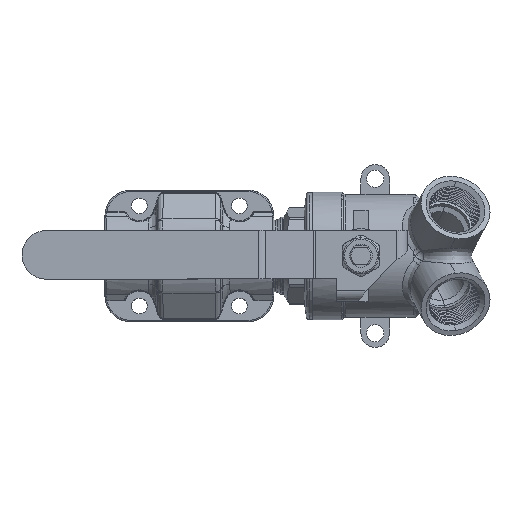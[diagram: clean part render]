
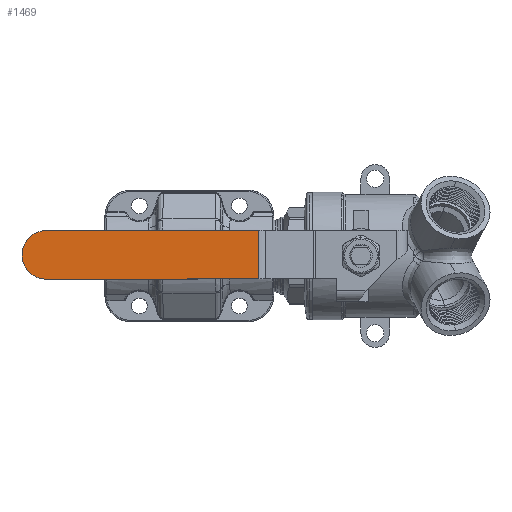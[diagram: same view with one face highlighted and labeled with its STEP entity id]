
A CAD part, top view. The second image highlights one B-rep face of the part: STEP entity #1469.
In plain terms, the highlighted planar face has unit normal (0, 0, 1).
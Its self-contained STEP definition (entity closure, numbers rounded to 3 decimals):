
#1287=PLANE('',#14549);
#1469=ADVANCED_FACE('',(#2636),#1287,.T.);
#2636=FACE_OUTER_BOUND('',#3505,.T.);
#3505=EDGE_LOOP('',(#6006,#6007,#6008,#6009,#6010));
#4497=LINE('',#20346,#5208);
#4498=LINE('',#20348,#5209);
#4499=LINE('',#20350,#5210);
#5208=VECTOR('',#16243,1.);
#5209=VECTOR('',#16246,1.);
#5210=VECTOR('',#16247,1.);
#6006=ORIENTED_EDGE('',*,*,#11544,.F.);
#6007=ORIENTED_EDGE('',*,*,#11543,.T.);
#6008=ORIENTED_EDGE('',*,*,#11462,.T.);
#6009=ORIENTED_EDGE('',*,*,#11540,.T.);
#6010=ORIENTED_EDGE('',*,*,#11545,.T.);
#10178=VERTEX_POINT('',#19990);
#10179=VERTEX_POINT('',#19992);
#10225=VERTEX_POINT('',#20339);
#10227=VERTEX_POINT('',#20344);
#10228=VERTEX_POINT('',#20349);
#11462=EDGE_CURVE('',#10179,#10178,#13620,.T.);
#11540=EDGE_CURVE('',#10178,#10225,#13632,.T.);
#11543=EDGE_CURVE('',#10227,#10179,#4497,.T.);
#11544=EDGE_CURVE('',#10227,#10228,#4498,.T.);
#11545=EDGE_CURVE('',#10225,#10228,#4499,.T.);
#13620=CIRCLE('',#14506,8.5);
#13632=CIRCLE('',#14546,8.5);
#14506=AXIS2_PLACEMENT_3D('',#19991,#16099,#16100);
#14546=AXIS2_PLACEMENT_3D('',#20340,#16237,#16238);
#14549=AXIS2_PLACEMENT_3D('',#20351,#16248,#16249);
#16099=DIRECTION('',(0.,0.,1.));
#16100=DIRECTION('',(-1.,-0.001,0.));
#16237=DIRECTION('',(0.,0.,1.));
#16238=DIRECTION('',(-1.,-0.001,0.));
#16243=DIRECTION('',(-1.,-0.001,0.));
#16246=DIRECTION('',(0.001,-1.,0.));
#16247=DIRECTION('',(1.,0.001,0.));
#16248=DIRECTION('',(0.,0.,1.));
#16249=DIRECTION('',(1.,0.001,0.));
#19990=CARTESIAN_POINT('',(-128.398,0.271,53.281));
#19991=CARTESIAN_POINT('',(-119.898,0.283,53.281));
#19992=CARTESIAN_POINT('',(-119.909,8.783,53.281));
#20339=CARTESIAN_POINT('',(-119.886,-8.217,53.281));
#20340=CARTESIAN_POINT('',(-119.898,0.283,53.281));
#20344=CARTESIAN_POINT('',(-45.788,8.883,53.281));
#20346=CARTESIAN_POINT('',(13.891,8.964,53.281));
#20348=CARTESIAN_POINT('',(-45.776,0.384,53.281));
#20349=CARTESIAN_POINT('',(-45.765,-8.116,53.281));
#20350=CARTESIAN_POINT('',(-119.886,-8.217,53.281));
#20351=CARTESIAN_POINT('',(-119.898,0.283,53.281));
